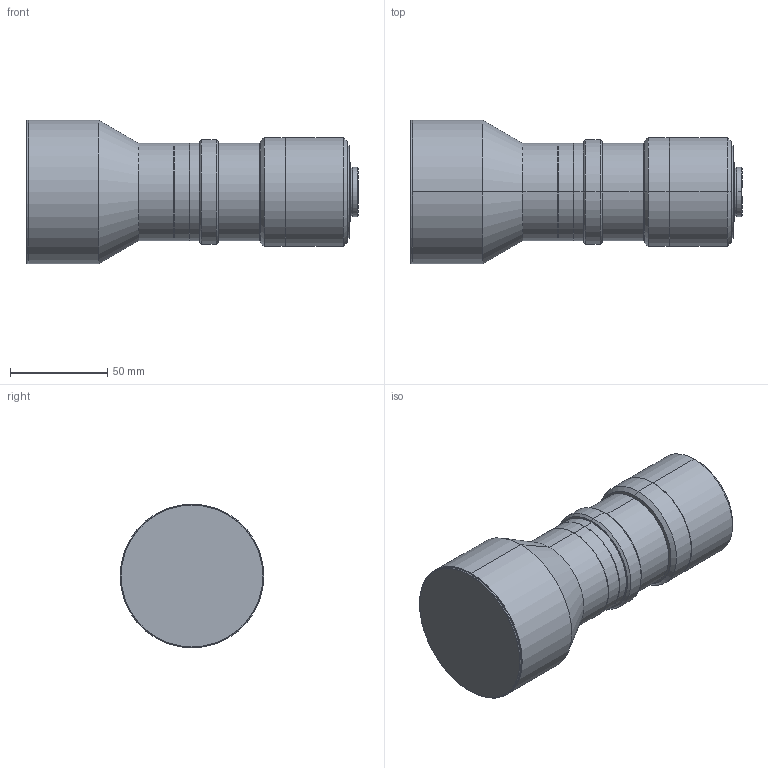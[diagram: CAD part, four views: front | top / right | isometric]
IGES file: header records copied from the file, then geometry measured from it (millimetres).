
Start section: SolidWorks IGES file using analytic representation for surfaces
Global section: file name: C:\Users\miura_vst\Desktop\一時保管\図面類\TCMマウント修正_外観図\VS-TCM04-100_S_3D\VS-TCM04-100_S.IGS; native system: SolidWorks 2017; preprocessor: SolidWorks 2017; author: miura_vst; date: 170328.141003; units: millimetre
Bounding box: 170.9 x 74 x 74 mm (x, y, z)
Surface area: 39275.9 mm2 (no closed solid volume)
Topology: 0 solids, 0 shells, 73 faces, 1216 edges, 1216 vertices
Faces by surface type: revolution 64, bspline 9
